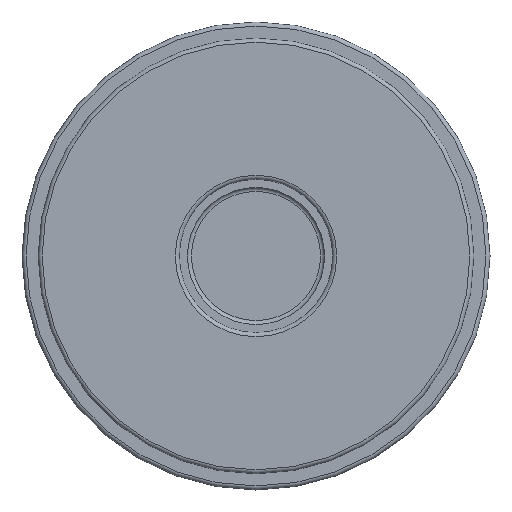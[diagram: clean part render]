
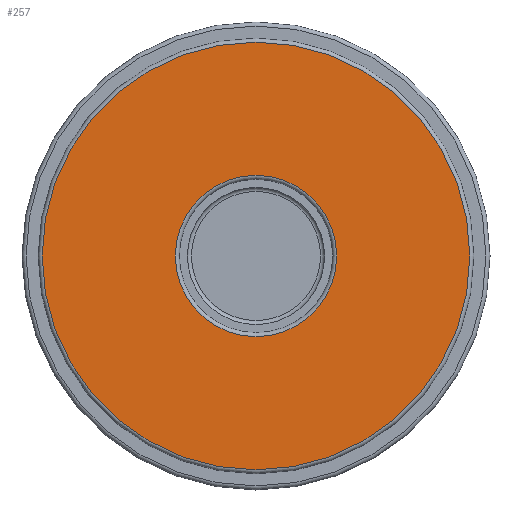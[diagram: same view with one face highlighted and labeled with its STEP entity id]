
A CAD part, front view. The second image highlights one B-rep face of the part: STEP entity #257.
In plain terms, the highlighted planar face has unit normal (0, -1, 0).
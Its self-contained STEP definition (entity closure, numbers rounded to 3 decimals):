
#257=ADVANCED_FACE('',(#5446,#5448),#5450,.T.);
#5446=FACE_BOUND('',#5447,.T.);
#5447=EDGE_LOOP('',(#6267,#6268));
#5448=FACE_BOUND('',#5449,.T.);
#5449=EDGE_LOOP('',(#6269,#6270));
#5450=PLANE('',#5451);
#5451=AXIS2_PLACEMENT_3D('',#5452,#5453,#5454);
#5452=CARTESIAN_POINT('',(0.,-14.,0.));
#5453=DIRECTION('',(0.,-1.,0.));
#5454=DIRECTION('',(0.,0.,1.));
#6267=ORIENTED_EDGE('',*,*,#6654,.F.);
#6268=ORIENTED_EDGE('',*,*,#6653,.F.);
#6269=ORIENTED_EDGE('',*,*,#6655,.T.);
#6270=ORIENTED_EDGE('',*,*,#6656,.T.);
#6653=EDGE_CURVE('',#7212,#7213,#7214,.T.);
#6654=EDGE_CURVE('',#7213,#7212,#7215,.T.);
#6655=EDGE_CURVE('',#7216,#7217,#7218,.T.);
#6656=EDGE_CURVE('',#7217,#7216,#7219,.T.);
#7212=VERTEX_POINT('',#11054);
#7213=VERTEX_POINT('',#11055);
#7214=CIRCLE('',#11056,26.5);
#7215=CIRCLE('',#11060,26.5);
#7216=VERTEX_POINT('',#11064);
#7217=VERTEX_POINT('',#11065);
#7218=CIRCLE('',#11066,10.);
#7219=CIRCLE('',#11070,10.);
#11054=CARTESIAN_POINT('',(0.,-14.,26.5));
#11055=CARTESIAN_POINT('',(0.,-14.,-26.5));
#11056=AXIS2_PLACEMENT_3D('',#11057,#11058,#11059);
#11057=CARTESIAN_POINT('',(0.,-14.,0.));
#11058=DIRECTION('',(0.,1.,0.));
#11059=DIRECTION('',(0.,0.,1.));
#11060=AXIS2_PLACEMENT_3D('',#11061,#11062,#11063);
#11061=CARTESIAN_POINT('',(0.,-14.,0.));
#11062=DIRECTION('',(0.,1.,0.));
#11063=DIRECTION('',(0.,0.,-1.));
#11064=CARTESIAN_POINT('',(0.,-14.,10.));
#11065=CARTESIAN_POINT('',(0.,-14.,-10.));
#11066=AXIS2_PLACEMENT_3D('',#11067,#11068,#11069);
#11067=CARTESIAN_POINT('',(0.,-14.,0.));
#11068=DIRECTION('',(0.,1.,0.));
#11069=DIRECTION('',(0.,0.,1.));
#11070=AXIS2_PLACEMENT_3D('',#11071,#11072,#11073);
#11071=CARTESIAN_POINT('',(0.,-14.,0.));
#11072=DIRECTION('',(0.,1.,0.));
#11073=DIRECTION('',(0.,0.,-1.));
